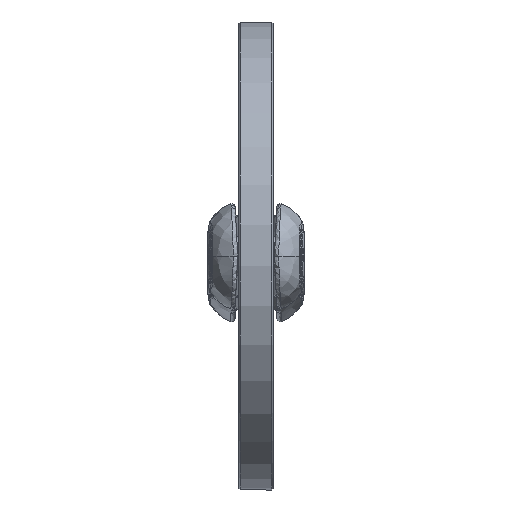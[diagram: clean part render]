
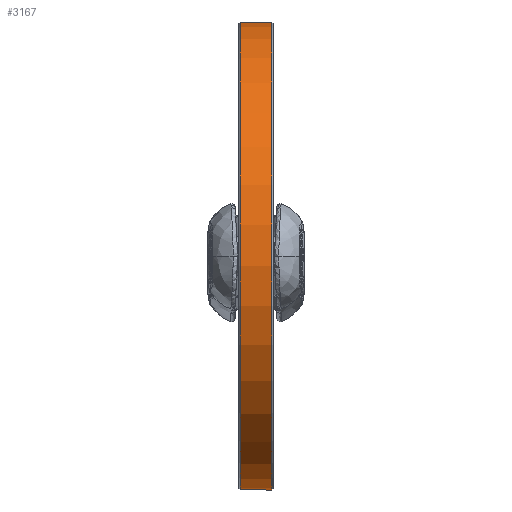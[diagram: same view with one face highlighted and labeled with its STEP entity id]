
A CAD part, top view. The second image highlights one B-rep face of the part: STEP entity #3167.
In plain terms, the highlighted cylindrical face has radius 602.5 mm (diameter 1205 mm), a full revolution.
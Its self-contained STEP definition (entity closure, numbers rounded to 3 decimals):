
#660=CYLINDRICAL_SURFACE($,#3521,602.5);
#770=FACE_BOUND($,#1301,.T.);
#987=FACE_OUTER_BOUND($,#1300,.T.);
#1300=EDGE_LOOP($,(#2901));
#1301=EDGE_LOOP($,(#2902));
#1490=CIRCLE($,#3520,602.5);
#1491=CIRCLE($,#3522,602.5);
#1761=VERTEX_POINT($,#13843);
#1762=VERTEX_POINT($,#13846);
#2146=EDGE_CURVE($,#1761,#1761,#1490,.T.);
#2147=EDGE_CURVE($,#1762,#1762,#1491,.T.);
#2901=ORIENTED_EDGE($,*,*,#2147,.F.);
#2902=ORIENTED_EDGE($,*,*,#2146,.F.);
#3167=ADVANCED_FACE($,(#987,#770),#660,.T.);
#3520=AXIS2_PLACEMENT_3D($,#13844,#4265,#4266);
#3521=AXIS2_PLACEMENT_3D($,#13845,#4267,#4268);
#3522=AXIS2_PLACEMENT_3D($,#13847,#4269,#4270);
#4265=DIRECTION('center_axis',(0.,0.,-1.));
#4266=DIRECTION('ref_axis',(-1.,0.,0.));
#4267=DIRECTION('center_axis',(0.,0.,1.));
#4268=DIRECTION('ref_axis',(-1.,0.,0.));
#4269=DIRECTION('center_axis',(0.,0.,1.));
#4270=DIRECTION('ref_axis',(-1.,0.,0.));
#13843=CARTESIAN_POINT('',(602.5,0.,-40.));
#13844=CARTESIAN_POINT('Origin',(0.,0.,-40.));
#13845=CARTESIAN_POINT('Origin',(0.,0.,0.));
#13846=CARTESIAN_POINT('',(602.5,0.,40.));
#13847=CARTESIAN_POINT('Origin',(0.,0.,40.));
